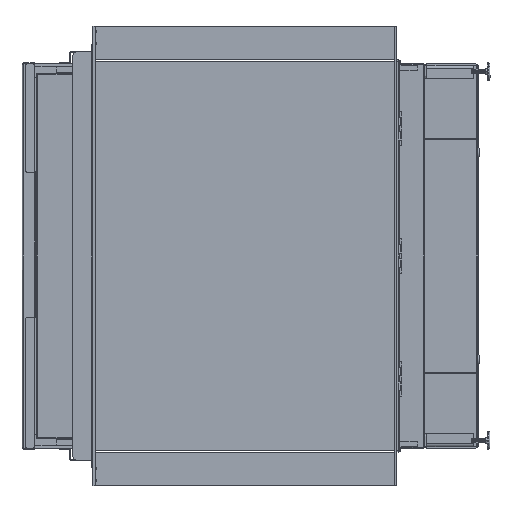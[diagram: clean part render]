
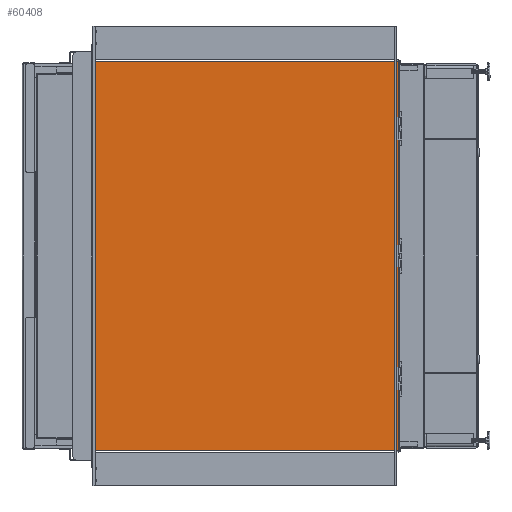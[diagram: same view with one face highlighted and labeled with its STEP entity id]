
A CAD part, left-side view. The second image highlights one B-rep face of the part: STEP entity #60408.
In plain terms, the highlighted planar face has unit normal (-1, 0, 0).
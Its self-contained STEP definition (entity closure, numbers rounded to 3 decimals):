
#8457 = ORIENTED_EDGE ( 'NONE', *, *, #60101, .T. ) ;
#10725 = LINE ( 'NONE', #21018, #28478 ) ;
#10845 = CARTESIAN_POINT ( 'NONE',  ( -380.7, 53., 423. ) ) ;
#12149 = VECTOR ( 'NONE', #40299, 1000. ) ;
#13815 = EDGE_CURVE ( 'Defeatured_1161+Defeatured_11613+Defeatured_11611+Defeatured_11612', #16984, #31967, #59412, .T. ) ;
#14056 = DIRECTION ( 'NONE',  ( 0., 0., -1. ) ) ;
#15120 = LINE ( 'NONE', #50238, #12149 ) ;
#16984 = VERTEX_POINT ( 'NONE', #22858 ) ;
#17847 = CARTESIAN_POINT ( 'NONE',  ( -380.7, 53., -423. ) ) ;
#20994 = VECTOR ( 'NONE', #63091, 1000. ) ;
#21018 = CARTESIAN_POINT ( 'NONE',  ( -380.7, 53., -423.5 ) ) ;
#22858 = CARTESIAN_POINT ( 'NONE',  ( -380.7, 724., -423. ) ) ;
#23956 = VERTEX_POINT ( 'NONE', #63817 ) ;
#24656 = DIRECTION ( 'NONE',  ( 1., 0., 0. ) ) ;
#27888 = EDGE_LOOP ( 'NONE', ( #61498, #30884, #38068, #8457 ) ) ;
#28478 = VECTOR ( 'NONE', #30936, 1000. ) ;
#30884 = ORIENTED_EDGE ( 'NONE', *, *, #13815, .T. ) ;
#30936 = DIRECTION ( 'NONE',  ( 0., 0., 1. ) ) ;
#31967 = VERTEX_POINT ( 'NONE', #17847 ) ;
#35312 = CARTESIAN_POINT ( 'NONE',  ( -380.7, 724.5, 423. ) ) ;
#36576 = AXIS2_PLACEMENT_3D ( 'NONE', #59475, #24656, #14056 ) ;
#37727 = EDGE_CURVE ( 'Defeatured_1161+Defeatured_11611+Defeatured_11610+Defeatured_11613', #23956, #16984, #15120, .T. ) ;
#38068 = ORIENTED_EDGE ( 'NONE', *, *, #58374, .T. ) ;
#39244 = PLANE ( 'NONE',  #36576 ) ;
#39884 = FACE_OUTER_BOUND ( 'NONE', #27888, .T. ) ;
#40299 = DIRECTION ( 'NONE',  ( 0., 0., -1. ) ) ;
#40609 = DIRECTION ( 'NONE',  ( 0., 1., 0. ) ) ;
#43172 = CARTESIAN_POINT ( 'NONE',  ( -380.7, 724.5, -423. ) ) ;
#49258 = LINE ( 'NONE', #35312, #62033 ) ;
#50238 = CARTESIAN_POINT ( 'NONE',  ( -380.7, 724., -423.5 ) ) ;
#58374 = EDGE_CURVE ( 'Defeatured_1161+Defeatured_11612+Defeatured_11613+Defeatured_11610', #31967, #64229, #10725, .T. ) ;
#59412 = LINE ( 'NONE', #43172, #20994 ) ;
#59475 = CARTESIAN_POINT ( 'NONE',  ( -380.7, 724.5, -423.5 ) ) ;
#60101 = EDGE_CURVE ( 'Defeatured_1161+Defeatured_11610+Defeatured_11612+Defeatured_11611', #64229, #23956, #49258, .T. ) ;
#60408 = ADVANCED_FACE ( 'Defeatured_1161', ( #39884 ), #39244, .F. ) ;
#61498 = ORIENTED_EDGE ( 'NONE', *, *, #37727, .T. ) ;
#62033 = VECTOR ( 'NONE', #40609, 1000. ) ;
#63091 = DIRECTION ( 'NONE',  ( 0., -1., 0. ) ) ;
#63817 = CARTESIAN_POINT ( 'NONE',  ( -380.7, 724., 423. ) ) ;
#64229 = VERTEX_POINT ( 'NONE', #10845 ) ;
